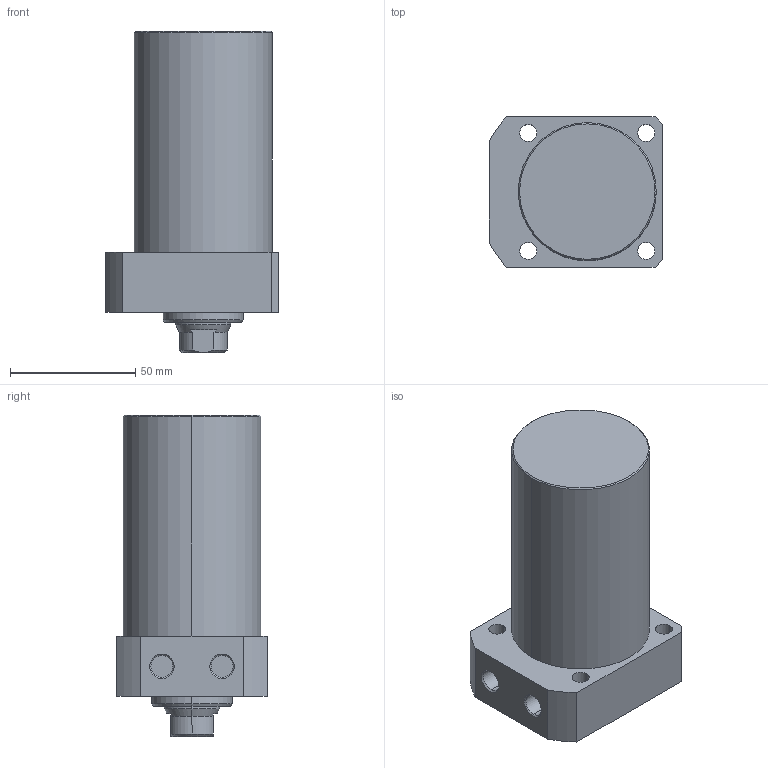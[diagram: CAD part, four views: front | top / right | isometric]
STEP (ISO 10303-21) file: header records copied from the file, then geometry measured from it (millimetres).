
FILE_DESCRIPTION (( 'STEP AP203' ), '1' );
FILE_NAME ('CLLR-055CA-075.STEP', '2019-12-19T07:32:21', ( '' ), ( '' ), 'SwSTEP 2.0', 'SolidWorks 2015', '' );
FILE_SCHEMA (( 'CONFIG_CONTROL_DESIGN' ));
Length unit declared in the file: millimetre
Products named in the file (1): CLLR-055CA-075
Bounding box: 69 x 60 x 128 mm (x, y, z)
Volume: 306709.8 mm3; surface area: 33387.4 mm2
Topology: 1 solids, 1 shells, 65 faces, 151 edges, 94 vertices
Faces by surface type: cylinder 29, plane 19, cone 17
Entity records: 1967 total; most frequent: CARTESIAN_POINT 349, DIRECTION 348, ORIENTED_EDGE 298, EDGE_CURVE 149, AXIS2_PLACEMENT_3D 141, VERTEX_POINT 94, EDGE_LOOP 81, CIRCLE 75
